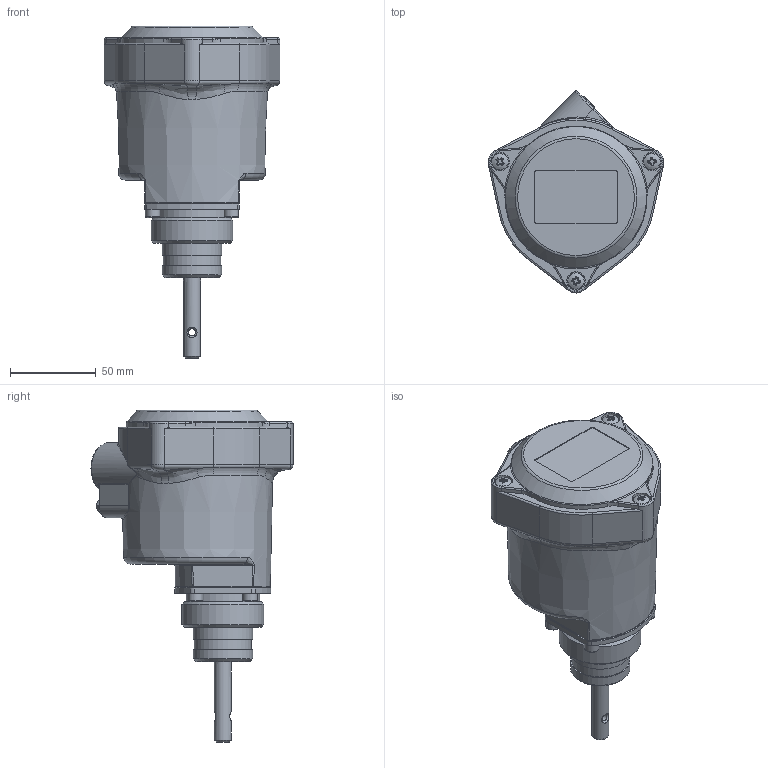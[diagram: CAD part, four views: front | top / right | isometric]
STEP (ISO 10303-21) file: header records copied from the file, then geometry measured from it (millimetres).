
FILE_DESCRIPTION(/* description */ (''),/* implementation_level */ '2;1');
FILE_NAME(/* name */ '\\SRVGEST\camlogic\TEMP\Kulwant S\2_STEP\2_STEP\PFG57\PFG-57 X.stp',/* time_stamp */ '2021-06-11T09:56:00+02:00',/* author */ ('kulwant.singh'),/* organization */ (''),/* preprocessor_version */ 'ST-DEVELOPER v18.1',/* originating_system */ 'Autodesk Inventor 2022',/* authorisation */ '');
FILE_SCHEMA (('AUTOMOTIVE_DESIGN { 1 0 10303 214 3 1 1 }'));
Length unit declared in the file: millimetre
Products named in the file (1): PFG-57 X
Bounding box: 102.8 x 118.07 x 194 mm (x, y, z)
Volume: 665508.8 mm3; surface area: 55040.7 mm2
Topology: 1 solids, 1 shells, 529 faces, 1350 edges, 846 vertices
Faces by surface type: plane 196, cylinder 161, cone 61, bspline 53, torus 51, sphere 7
Full cylindrical faces by diameter (mm): 4.134 x1, 6.88 x1, 7.333 x1, 8 x1, 8.5 x4, 9.4 x1, 10 x2, 10.8 x3, 14.2 x1, 18.631 x1, 23.5 x1, 25 x1, 26 x2, 33.5 x1, 34.8 x2, 43 x1, 47.803 x1
Entity records: 18183 total; most frequent: CARTESIAN_POINT 5038, ORIENTED_EDGE 2672, DIRECTION 2633, EDGE_CURVE 1336, AXIS2_PLACEMENT_3D 1046, VERTEX_POINT 846, EDGE_LOOP 570, LINE 541
